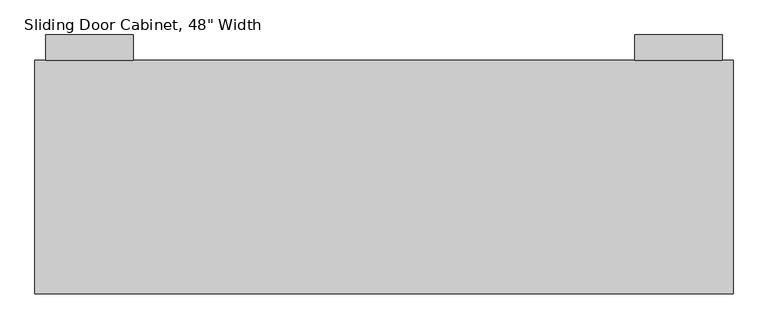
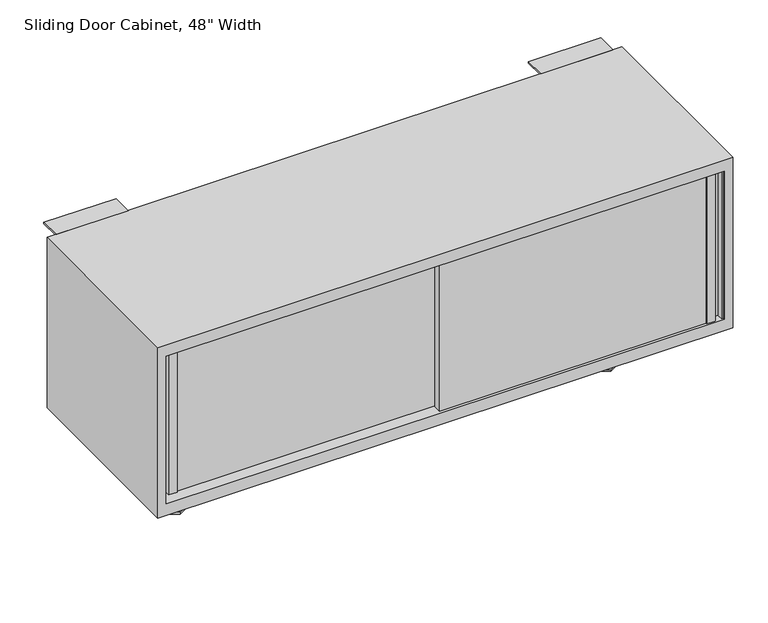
"""IFC4 building model written with IfcOpenShell, lengths in millimetres: furniture geometry."""

from ifc_helpers import new_model, si_unit, point, frame, frame_2d, origin, origin_with_axes, place, context, project, spatial, polyline, circle_curve, trimmed, segment, composite_curve, outline, extrude, faceted_brep, source, transform, mapped, element, save


def furniture_c8d8c331(model_context):
    return source(origin(), model_context, "Body", "SolidModel", [
        extrude(outline(composite_curve([segment(trimmed(circle_curve(frame_2d((-609.6, -176.6800781)), 3.9782717), [point((-609.6, -172.7018065))], [point((-609.6, -180.6583498))], False, "CARTESIAN"), True, "CONTINUOUS"), segment(trimmed(circle_curve(frame_2d((-609.6, -176.6800781)), 3.9782717), [point((-609.6, -180.6583498))], [point((-609.6, -172.7018065))], False, "CARTESIAN"), True, "CONTINUOUS")], self_intersect=False)), frame((0.0, 0.0, 3.794115), z_axis=(0.0, 0.0, 1.0), x_axis=(1.0, 0.0, 0.0)), (0.0, 0.0, 1.0), 26.230875),
        extrude(outline(composite_curve([segment(trimmed(circle_curve(frame_2d((301.752, -176.6800781)), 3.9782717), [point((301.752, -172.7018065))], [point((301.752, -180.6583498))], False, "CARTESIAN"), True, "CONTINUOUS"), segment(trimmed(circle_curve(frame_2d((301.752, -176.6800781)), 3.9782717), [point((301.752, -180.6583498))], [point((301.752, -172.7018065))], False, "CARTESIAN"), True, "CONTINUOUS")], self_intersect=False)), frame((0.0, 0.0, 3.794115), z_axis=(0.0, 0.0, 1.0), x_axis=(1.0, 0.0, 0.0)), (0.0, 0.0, 1.0), 26.230875),
        extrude(outline(polyline([(284.2779143, -166.5914101), (301.752, -156.502742), (319.2260857, -166.5914101), (319.2260857, -186.7687462), (301.752, -196.8574143), (284.2779143, -186.7687462), (284.2779143, -166.5914101)])), origin_with_axes(), (0.0, 0.0, 1.0), 3.794115),
        extrude(outline(polyline([(-627.0740857, -166.5914101), (-609.6, -156.502742), (-592.1259143, -166.5914101), (-592.1259143, -186.7687462), (-609.6, -196.8574143), (-627.0740857, -186.7687462), (-627.0740857, -166.5914101)])), origin_with_axes(), (0.0, 0.0, 1.0), 3.794115),
        extrude(outline(polyline([(-708.7275816, -354.8480781), (-708.7275816, -357.3480781), (-726.3275816, -357.3480781), (-726.3275816, -341.3098281), (-740.0275816, -341.3098281), (-740.0275816, -357.3480781), (-743.6275816, -357.3480781), (-743.6275816, -339.3098281), (-723.8275816, -339.3098281), (-723.8275816, -354.8480781), (-708.7275816, -354.8480781)])), frame((0.0, 0.0, 180.975), z_axis=(0.0, 0.0, 1.0), x_axis=(1.0, 0.0, 0.0)), (0.0, 0.0, 1.0), 330.2),
        extrude(outline(polyline([(400.9035816, -374.8080781), (416.0035816, -374.8080781), (416.0035816, -361.8080781), (435.8035816, -361.8080781), (435.8035816, -377.3080781), (432.2035816, -377.3080781), (432.2035816, -363.8080781), (418.5035816, -363.8080781), (418.5035816, -377.3080781), (400.9035816, -377.3080781), (400.9035816, -374.8080781)])), frame((0.0, 0.0, 180.975), z_axis=(0.0, 0.0, 1.0), x_axis=(1.0, 0.0, 0.0)), (0.0, 0.0, 1.0), 330.2),
        extrude(outline(polyline([(-162.8144184, -357.0080781), (416.0035816, -357.0080781), (416.0035816, -374.8080781), (-162.8144184, -374.8080781), (-162.8144184, -357.0080781)])), frame((0.0, 0.0, 180.975), z_axis=(0.0, 0.0, 1.0), x_axis=(1.0, 0.0, 0.0)), (0.0, 0.0, 1.0), 330.2),
        extrude(outline(polyline([(-723.8275816, -337.0480781), (-145.034, -337.0480781), (-145.034, -354.8480781), (-723.8275816, -354.8480781), (-723.8275816, -337.0480781)])), frame((0.0, 0.0, 180.975), z_axis=(0.0, 0.0, 1.0), x_axis=(1.0, 0.0, 0.0)), (0.0, 0.0, 1.0), 330.2),
        extrude(outline(polyline([(291.7444, -157.6300781), (311.7596, -157.6300781), (311.7596, -195.7300781), (291.7444, -195.7300781), (291.7444, -157.6300781)])), frame((0.0, 0.0, 30.02499), z_axis=(0.0, 0.0, 1.0), x_axis=(1.0, 0.0, 0.0)), (0.0, 0.0, 1.0), 125.55001),
        extrude(outline(polyline([(-619.6, -157.6300781), (-599.6, -157.6300781), (-599.6, -195.7300781), (-619.6, -195.7300781), (-619.6, -157.6300781)])), frame((0.0, 0.0, 30.02499), z_axis=(0.0, 0.0, 1.0), x_axis=(1.0, 0.0, 0.0)), (0.0, 0.0, 1.0), 125.55001),
        extrude(outline(polyline([(26.5199219, 508.77499), (26.5199219, 536.575), (70.8140505, 536.575), (70.8140505, 533.80049), (29.2199219, 533.80049), (29.2199219, 508.77499), (26.5199219, 508.77499)])), frame((282.676, 0.0, 0.0), z_axis=(1.0, 0.0, 0.0), x_axis=(0.0, 1.0, 0.0)), (0.0, 0.0, 1.0), 152.4),
        extrude(outline(polyline([(26.5199219, 536.575), (70.8140505, 536.575), (70.8140505, 533.80049), (29.2199219, 533.80049), (29.2199219, 508.77499), (26.5199219, 508.77499), (26.5199219, 536.575)])), frame((-742.9, 0.0, 0.0), z_axis=(1.0, 0.0, 0.0), x_axis=(0.0, 1.0, 0.0)), (0.0, 0.0, 1.0), 152.4),
        faceted_brep([(454.152, -379.8800781, 536.575), (454.152, 26.5199219, 536.575), (-762.0, 26.5199219, 536.575), (-762.0, -379.8800781, 536.575), (454.152, 26.5199219, 155.575), (454.152, -379.8800781, 155.575), (-762.0, -379.8800781, 155.575), (-762.0, 26.5199219, 155.575), (436.372, -379.8800781, 180.975), (436.372, -379.8800781, 511.175), (436.372, 1.1199219, 511.175), (436.372, 1.1199219, 180.975), (-744.22, -379.8800781, 180.975), (-744.22, -379.8800781, 511.175), (-744.22, 1.1199219, 180.975), (-744.22, 1.1199219, 511.175)], [[[0, 1, 2, 3]], [[4, 5, 6, 7]], [[8, 9, 10, 11]], [[0, 3, 6, 5], [8, 12, 13, 9]], [[1, 0, 5, 4]], [[2, 1, 4, 7]], [[6, 3, 2, 7]], [[13, 12, 14, 15]], [[12, 8, 11, 14]], [[14, 11, 10, 15]], [[9, 13, 15, 10]]]),
    ])


if __name__ == "__main__":
    model = new_model("IFC4")
    model_context = context("Model", 3, world=origin())
    ifc_project = project(units=[si_unit("LENGTHUNIT", "METRE", prefix="MILLI")], contexts=[model_context])
    site = spatial("IfcSite", under=ifc_project)
    building = spatial("IfcBuilding", under=site)
    placement = place(None, origin())
    furniture_shape = furniture_c8d8c331(model_context)
    element("IfcFurniture", 1, ObjectType="Furniture-Cabinet-Teknion-Altos_Landscape-R2015 : Sliding Door Cabinet, 48\" Width", at=placement, inside=building, context=model_context, shape_type="MappedRepresentation", body=[
        mapped(furniture_shape, transform((0.0, 0.0, 0.0), x_axis=(1.0, 0.0, 0.0), y_axis=(0.0, 1.0, 0.0), z_axis=(0.0, 0.0, 1.0))),
    ])
    save(model, "model.ifc")
